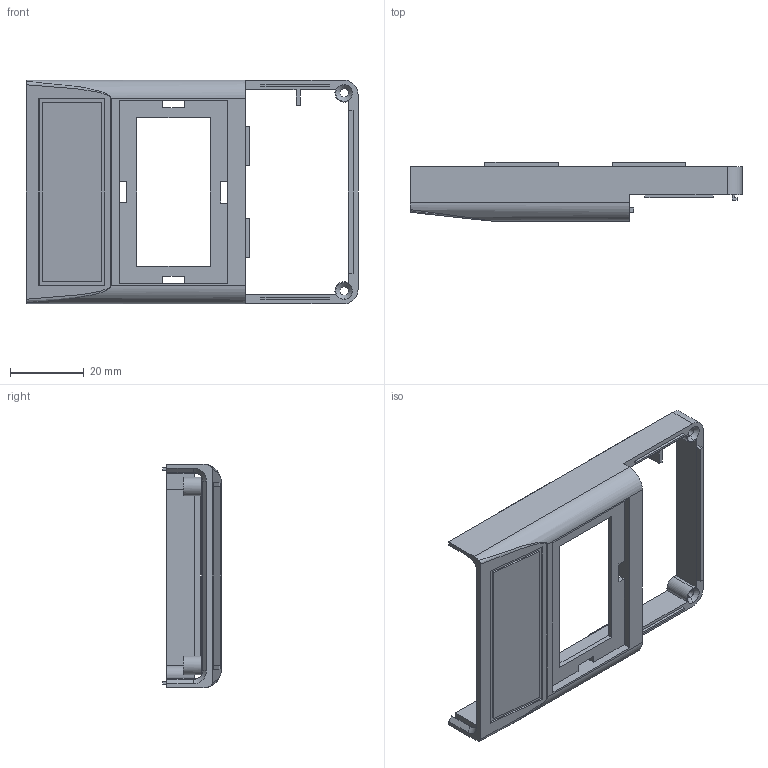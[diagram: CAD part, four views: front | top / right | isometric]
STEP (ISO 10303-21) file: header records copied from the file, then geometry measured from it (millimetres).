
FILE_DESCRIPTION (( 'STEP AP214' ), '1' );
FILE_NAME ('Cuerpo PP64E.STEP', '2017-09-14T07:36:01', ( 'aaa' ), ( '' ), 'SwSTEP 2.0', 'SolidWorks 2013', '' );
FILE_SCHEMA (( 'AUTOMOTIVE_DESIGN' ));
Length unit declared in the file: millimetre
Products named in the file (1): Cuerpo PP64E
Bounding box: 90 x 15.9 x 60.7 mm (x, y, z)
Volume: 13457.1 mm3; surface area: 13027.4 mm2
Topology: 1 solids, 1 shells, 155 faces, 422 edges, 276 vertices
Faces by surface type: plane 127, cylinder 20, cone 4, bspline 4
Entity records: 5024 total; most frequent: CARTESIAN_POINT 1078, ORIENTED_EDGE 844, DIRECTION 740, EDGE_CURVE 422, LINE 364, VECTOR 364, VERTEX_POINT 276, AXIS2_PLACEMENT_3D 188
